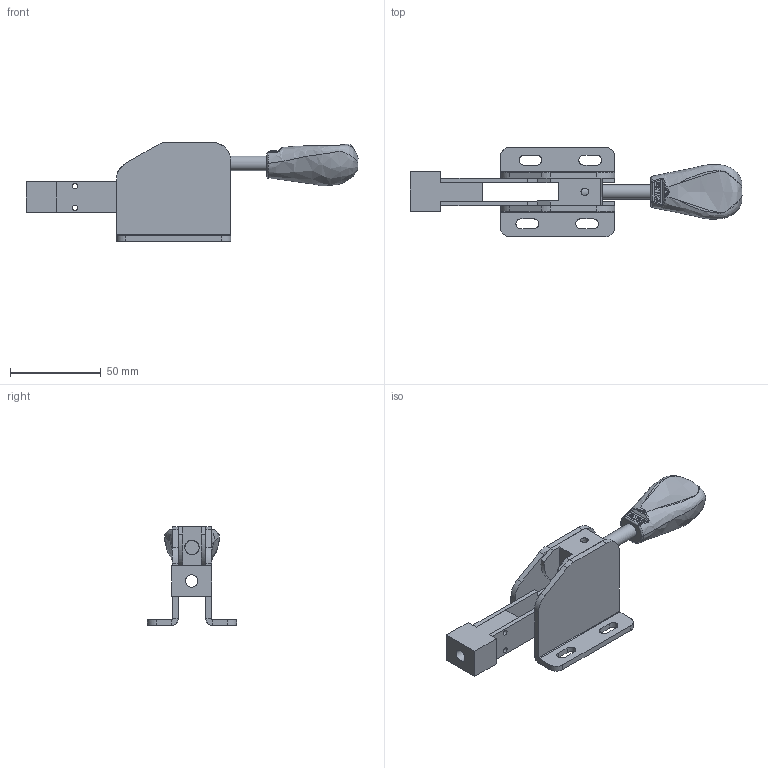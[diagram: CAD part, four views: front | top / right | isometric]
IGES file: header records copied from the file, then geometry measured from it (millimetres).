
Global section: file name: PSP-33ST-CLAMP; native system: Autodesk Inventor 2019; preprocessor: unknown; author: 桶田 勝弘,,11,0, ; organization: 20180208.063216; date: 20240516.131209; units: millimetre
Bounding box: 183.2 x 49.2 x 54.5 mm (x, y, z)
Volume: 69689.2 mm3; surface area: 38913.6 mm2
Topology: 8 solids, 8 shells, 226 faces, 600 edges, 394 vertices
Faces by surface type: bspline 226
